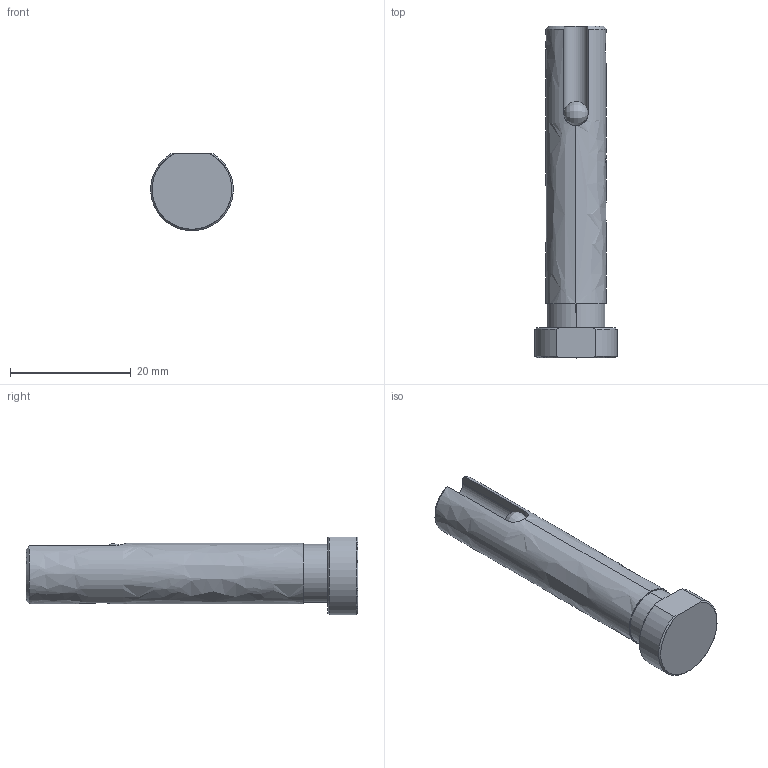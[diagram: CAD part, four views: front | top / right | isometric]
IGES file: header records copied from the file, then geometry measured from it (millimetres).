
Start section: SolidWorks IGES file using analytic representation for surfaces
Global section: file name: G:\Dropbox (Almo)\XPS 8700\Documents\Almo\SolidWorks Files\New Products (2018)\EGCP\Finished Parts\IGES\EGCP-10x50mm (1-Gate).IGS; native system: SolidWorks 2014; preprocessor: SolidWorks 2014; author: Victor; date: 180806.135145; units: millimetre
Bounding box: 13.66 x 55 x 12.85 mm (x, y, z)
Surface area: 2242.6 mm2 (no closed solid volume)
Topology: 0 solids, 0 shells, 28 faces, 420 edges, 418 vertices
Faces by surface type: revolution 16, bspline 12
